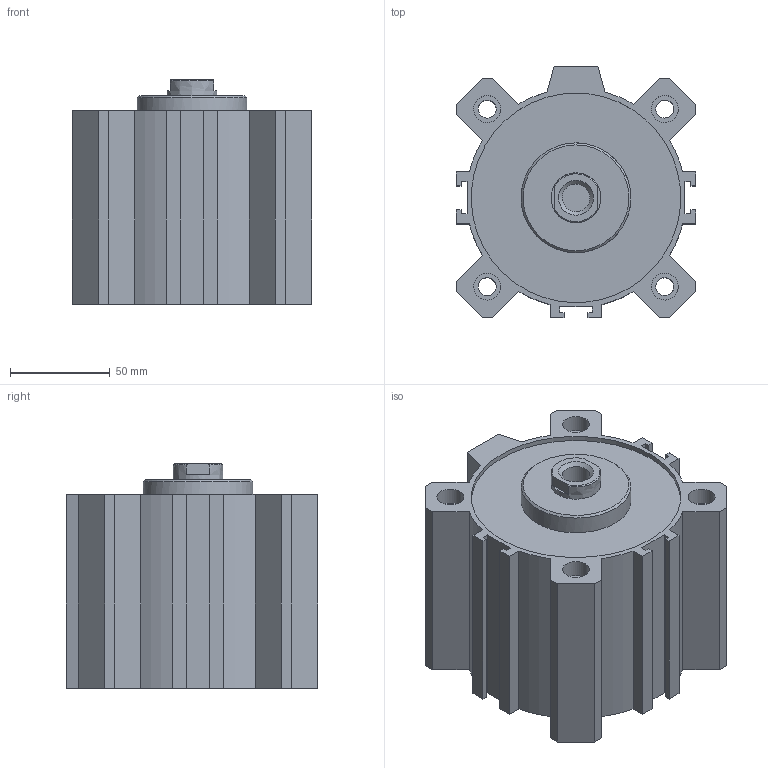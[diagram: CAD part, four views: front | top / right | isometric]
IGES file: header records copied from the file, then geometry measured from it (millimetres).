
Global section: file name: 1511_100_0045; native system: Autodesk Inventor 2014; preprocessor: unknown; author: A. Manieri; date: 20160824.162613; units: millimetre
Bounding box: 120 x 126 x 112.5 mm (x, y, z)
Volume: 795618.9 mm3; surface area: 164188.2 mm2
Topology: 2 solids, 2 shells, 119 faces, 307 edges, 210 vertices
Faces by surface type: bspline 119
